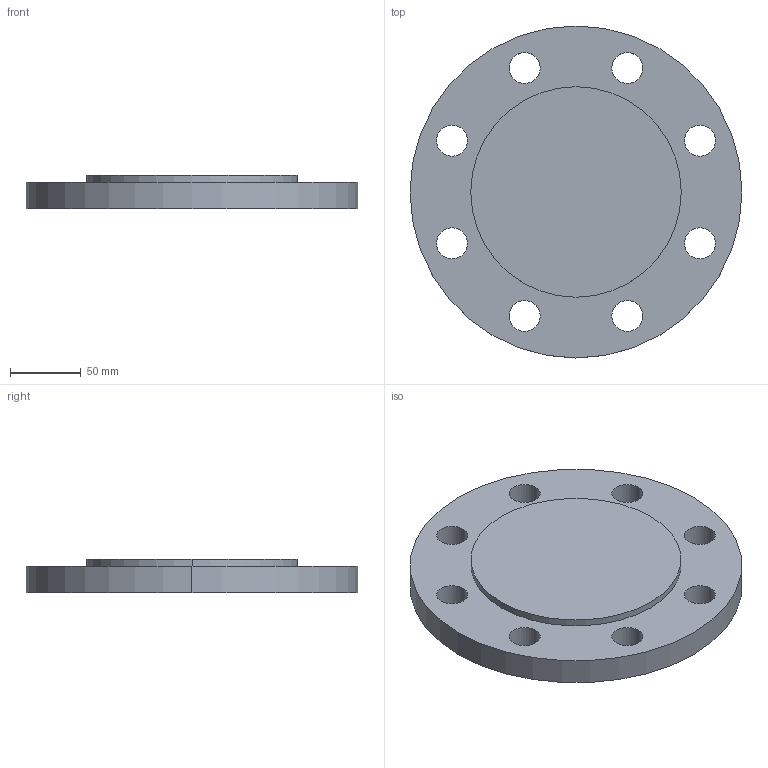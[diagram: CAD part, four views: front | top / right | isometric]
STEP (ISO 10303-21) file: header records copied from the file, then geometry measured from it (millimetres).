
FILE_DESCRIPTION (( 'STEP AP214' ), '1' );
FILE_NAME ('PN40 DN100 Type 05 - Type E Face.STEP', '2019-01-02T00:25:26', ( '' ), ( '' ), 'SwSTEP 2.0', 'SolidWorks 2019', '' );
FILE_SCHEMA (( 'AUTOMOTIVE_DESIGN' ));
Length unit declared in the file: millimetre
Products named in the file (1): PN40 DN100 Type 05 - Type E Face
Bounding box: 235 x 235 x 24 mm (x, y, z)
Volume: 853501.6 mm3; surface area: 107538.3 mm2
Topology: 1 solids, 1 shells, 23 faces, 60 edges, 40 vertices
Faces by surface type: cylinder 20, plane 3
Entity records: 800 total; most frequent: DIRECTION 148, CARTESIAN_POINT 124, ORIENTED_EDGE 120, AXIS2_PLACEMENT_3D 64, EDGE_CURVE 60, CIRCLE 40, VERTEX_POINT 40, EDGE_LOOP 40
